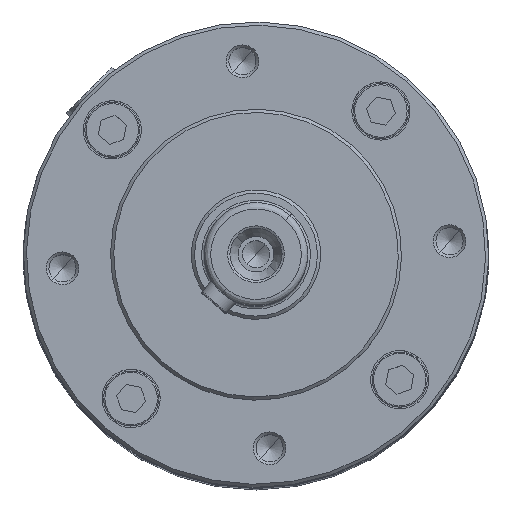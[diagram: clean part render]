
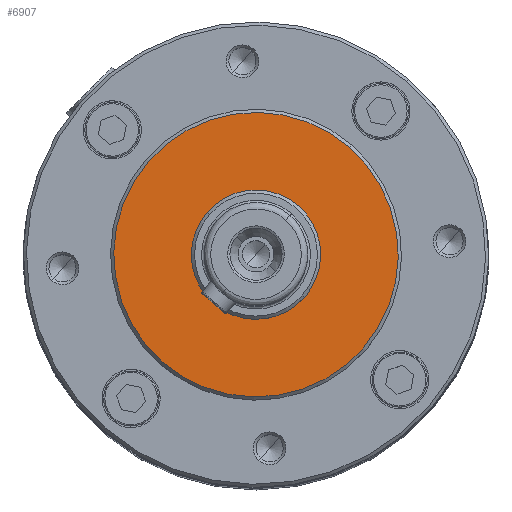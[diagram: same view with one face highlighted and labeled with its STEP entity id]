
A CAD part, top view. The second image highlights one B-rep face of the part: STEP entity #6907.
In plain terms, the highlighted planar face has unit normal (0, 0, 1) as drawn and (0, 1, 0) by its records, which use the part's own axes.
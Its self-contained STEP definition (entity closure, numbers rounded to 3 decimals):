
#819 = ORIENTED_EDGE ( 'NONE', *, *, #5280, .T. ) ;
#1060 = DIRECTION ( 'NONE',  ( 0., 0., 1. ) ) ;
#1319 = AXIS2_PLACEMENT_3D ( 'NONE', #5234, #3486, #4643 ) ;
#1614 = AXIS2_PLACEMENT_3D ( 'NONE', #3306, #4896, #5881 ) ;
#1728 = CARTESIAN_POINT ( 'NONE',  ( 0., 36.5, 0. ) ) ;
#1830 = ORIENTED_EDGE ( 'NONE', *, *, #6225, .T. ) ;
#1914 = CARTESIAN_POINT ( 'NONE',  ( 0., 36.5, -10. ) ) ;
#2631 = EDGE_CURVE ( 'NONE', #6049, #7472, #7416, .T. ) ;
#2762 = AXIS2_PLACEMENT_3D ( 'NONE', #6015, #4787, #5401 ) ;
#3104 = AXIS2_PLACEMENT_3D ( 'NONE', #6991, #6876, #1060 ) ;
#3192 = CIRCLE ( 'NONE', #1614, 10. ) ;
#3306 = CARTESIAN_POINT ( 'NONE',  ( 0., 36.5, 0. ) ) ;
#3450 = FACE_OUTER_BOUND ( 'NONE', #6716, .T. ) ;
#3486 = DIRECTION ( 'NONE',  ( 0., -1., 0. ) ) ;
#4049 = ORIENTED_EDGE ( 'NONE', *, *, #5836, .F. ) ;
#4167 = CARTESIAN_POINT ( 'NONE',  ( 0., 36.5, -22. ) ) ;
#4533 = FACE_BOUND ( 'NONE', #5283, .T. ) ;
#4643 = DIRECTION ( 'NONE',  ( 0., 0., -1. ) ) ;
#4762 = CARTESIAN_POINT ( 'NONE',  ( 0., 36.5, 22. ) ) ;
#4787 = DIRECTION ( 'NONE',  ( 0., -1., 0. ) ) ;
#4889 = ORIENTED_EDGE ( 'NONE', *, *, #2631, .F. ) ;
#4896 = DIRECTION ( 'NONE',  ( 0., -1., 0. ) ) ;
#5166 = PLANE ( 'NONE',  #3104 ) ;
#5234 = CARTESIAN_POINT ( 'NONE',  ( 0., 36.5, 0. ) ) ;
#5280 = EDGE_CURVE ( 'NONE', #6381, #6013, #3192, .T. ) ;
#5283 = EDGE_LOOP ( 'NONE', ( #1830, #819 ) ) ;
#5401 = DIRECTION ( 'NONE',  ( 0., 0., -1. ) ) ;
#5836 = EDGE_CURVE ( 'NONE', #7472, #6049, #7186, .T. ) ;
#5881 = DIRECTION ( 'NONE',  ( 0., 0., -1. ) ) ;
#6013 = VERTEX_POINT ( 'NONE', #1914 ) ;
#6015 = CARTESIAN_POINT ( 'NONE',  ( 0., 36.5, 0. ) ) ;
#6049 = VERTEX_POINT ( 'NONE', #4762 ) ;
#6225 = EDGE_CURVE ( 'NONE', #6013, #6381, #6820, .T. ) ;
#6244 = CARTESIAN_POINT ( 'NONE',  ( 0., 36.5, 10. ) ) ;
#6381 = VERTEX_POINT ( 'NONE', #6244 ) ;
#6429 = DIRECTION ( 'NONE',  ( 0., 0., -1. ) ) ;
#6469 = DIRECTION ( 'NONE',  ( 0., -1., 0. ) ) ;
#6559 = AXIS2_PLACEMENT_3D ( 'NONE', #1728, #6469, #6429 ) ;
#6716 = EDGE_LOOP ( 'NONE', ( #4049, #4889 ) ) ;
#6820 = CIRCLE ( 'NONE', #2762, 10. ) ;
#6876 = DIRECTION ( 'NONE',  ( 0., 1., 0. ) ) ;
#6907 = ADVANCED_FACE ( 'NONE', ( #4533, #3450 ), #5166, .T. ) ;
#6991 = CARTESIAN_POINT ( 'NONE',  ( 0., 36.5, 0. ) ) ;
#7186 = CIRCLE ( 'NONE', #1319, 22. ) ;
#7416 = CIRCLE ( 'NONE', #6559, 22. ) ;
#7472 = VERTEX_POINT ( 'NONE', #4167 ) ;
